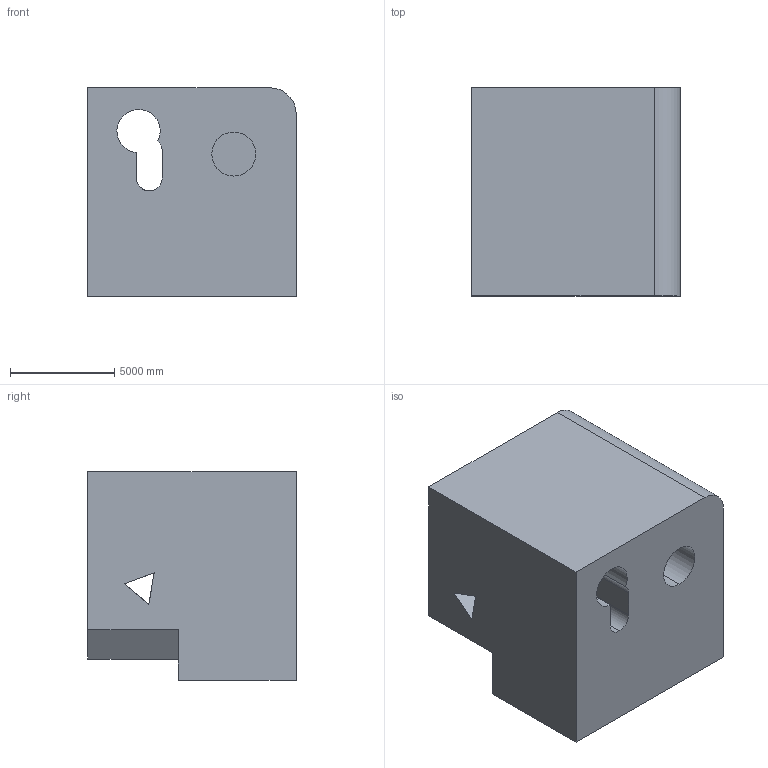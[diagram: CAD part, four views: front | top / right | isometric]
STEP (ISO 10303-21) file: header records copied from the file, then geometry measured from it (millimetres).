
FILE_DESCRIPTION (( 'STEP AP203' ), '1' );
FILE_NAME ('187.STEP', '2022-08-31T12:17:45', ( 'user' ), ( '' ), 'SwSTEP 2.0', 'SolidWorks 2021', '' );
FILE_SCHEMA (( 'CONFIG_CONTROL_DESIGN' ));
Length unit declared in the file: centimetre
Products named in the file (1): 187
Bounding box: 10000 x 10000 x 10000 mm (x, y, z)
Volume: 792512947870.9 mm3; surface area: 831832953.4 mm2
Topology: 1 solids, 1 shells, 42 faces, 123 edges, 82 vertices
Faces by surface type: plane 26, cylinder 16
Entity records: 1766 total; most frequent: CARTESIAN_POINT 555, ORIENTED_EDGE 246, DIRECTION 228, EDGE_CURVE 123, VERTEX_POINT 82, AXIS2_PLACEMENT_3D 77, VECTOR 74, LINE 74
